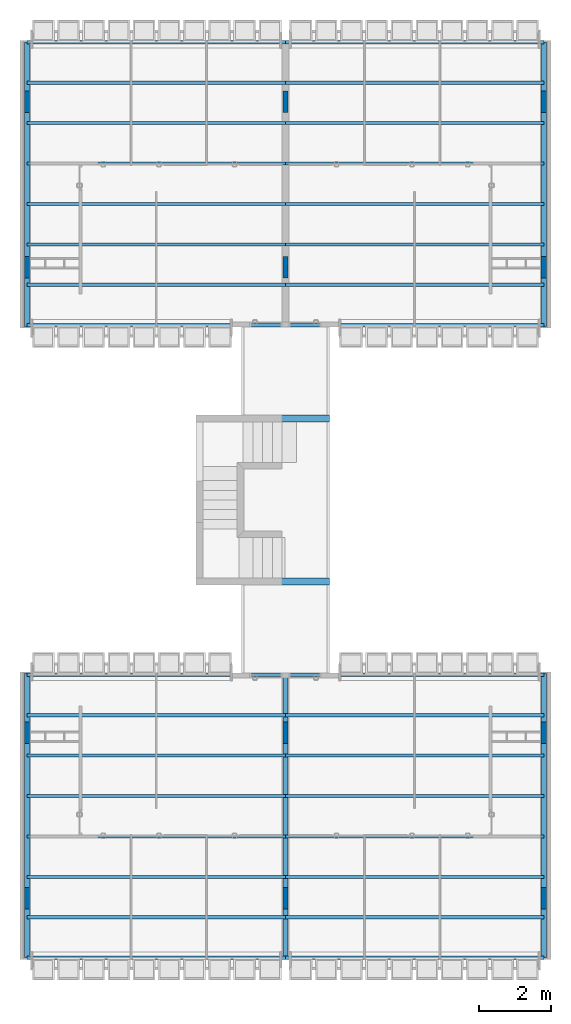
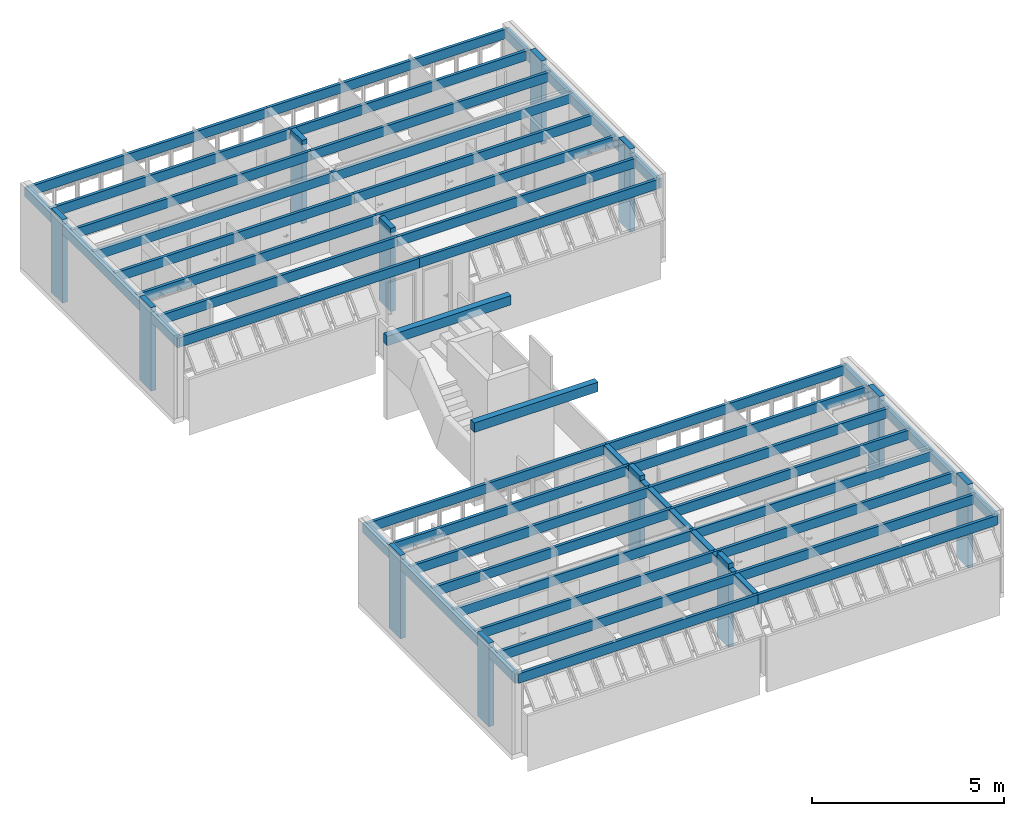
# One storey, part 1 of 38: 39 beams, 12 columns.
"""IFC2X3 building model written with IfcOpenShell, lengths in millimetres."""

from ifc_helpers import new_model, entity, si_unit, converted_unit, derived_unit, money_unit, direction, frame, frame_2d, origin_with_axes, origin_2d_with_axis, place, context, subcontext, project, spatial, rectangle, extrude, material, type_object, element, save


model = new_model("IFC2X3")

# Units and contexts
model_context = context("Model", 3, precision=0.01, world=origin_with_axes(), true_north=direction((0.0, 1.0)))
body_context = subcontext(model_context, "Body", "Model", "MODEL_VIEW")
ifc_project = project(units=[si_unit("LENGTHUNIT", "METRE", prefix="MILLI"), si_unit("AREAUNIT", "SQUARE_METRE"), si_unit("VOLUMEUNIT", "CUBIC_METRE"), converted_unit("PLANEANGLEUNIT", "DEGREE", entity("IfcPlaneAngleMeasure", 0.0174532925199), si_unit("PLANEANGLEUNIT", "RADIAN"), dimensions=[0, 0, 0, 0, 0, 0, 0]), money_unit("USD"), converted_unit("TIMEUNIT", "Year", entity("IfcTimeMeasure", 31556926.0), si_unit("TIMEUNIT", "SECOND"), dimensions=[0, 0, 1, 0, 0, 0, 0]), si_unit("MASSUNIT", "GRAM", prefix="KILO"), si_unit("THERMODYNAMICTEMPERATUREUNIT", "DEGREE_CELSIUS"), si_unit("LUMINOUSINTENSITYUNIT", "LUMEN"), si_unit("ENERGYUNIT", "JOULE", prefix="MEGA"), derived_unit("THERMALCONDUCTANCEUNIT", [(si_unit("POWERUNIT", "WATT"), 1), (si_unit("LENGTHUNIT", "METRE"), -1), (si_unit("THERMODYNAMICTEMPERATUREUNIT", "KELVIN"), -1)]), derived_unit("SPECIFICHEATCAPACITYUNIT", [(si_unit("ENERGYUNIT", "JOULE"), 1), (si_unit("MASSUNIT", "GRAM", prefix="KILO"), -1), (si_unit("THERMODYNAMICTEMPERATUREUNIT", "KELVIN"), -1)]), derived_unit("MASSDENSITYUNIT", [(si_unit("MASSUNIT", "GRAM", prefix="KILO"), 1), (si_unit("VOLUMEUNIT", "CUBIC_METRE"), -1)])], contexts=[model_context])

# Site, building, storey
site_placement = place(None, origin_with_axes())
site = spatial("IfcSite", under=ifc_project, at=site_placement, Name="Local", CompositionType="ELEMENT")
building_placement = place(site_placement, origin_with_axes())
building = spatial("IfcBuilding", under=site, at=building_placement, Name="Construção", CompositionType="ELEMENT")
storey_placement = place(building_placement, frame((0.0, 0.0, 2650.0), z_axis=(0.0, 0.0, 1.0), x_axis=(1.0, 0.0, 0.0)))
storey = spatial("IfcBuildingStorey", under=building, at=storey_placement, Name="Segundo Pavimento", CompositionType="ELEMENT", Elevation=2650.0)

# Columns
ifc_material = material(Name="Concreto Armado Moldado in Loco - Estrutural")
column_type = type_object("IfcColumnType", Name="Concreto Armado Moldado in Loco - Estrutural 600 x 150", PredefinedType="NOTDEFINED")
column_placement = place(storey_placement, frame((7385.0, 19560.0, 0.0), z_axis=(0.0, 0.0, 1.0), x_axis=(0.0, -1.0, 0.0)))
element("IfcColumn", 1, at=column_placement, inside=storey, type_object=column_type, material=ifc_material, Name="CIRC2-PILAR-004", context=body_context, shape_type="SweptSolid", body=[
    extrude(rectangle(XDim=600.0, YDim=150.0, at=origin_2d_with_axis()), frame((0.0, 0.0, 0.0), z_axis=(0.0, 0.0, -1.0), x_axis=(-1.0, 0.0, 0.0)), (0.0, 0.0, -1.0), 2650.0),
])
for number, where, z_axis, x_axis, name in (
    (2, (195.0, 2000.0, 0.0), (0.0, 0.0, 1.0), (0.0, -1.0, 0.0), "APTO5-PILAR-000"),
    (3, (195.0, 6600.0, 0.0), (0.0, 0.0, 1.0), (0.0, -1.0, 0.0), "APTO5-PILAR-001"),
    (4, (7385.0, 6600.0, 0.0), (0.0, 0.0, 1.0), (0.0, -1.0, 0.0), "CIRC2-PILAR-003"),
):
    element("IfcColumn", number, at=place(storey_placement, frame(where, z_axis=z_axis, x_axis=x_axis)), inside=storey, type_object=column_type, material=ifc_material, Name=name, context=body_context, shape_type="SweptSolid", body=[
        extrude(rectangle(XDim=600.0, YDim=150.0, at=origin_2d_with_axis()), origin_with_axes(), (0.0, 0.0, 1.0), 2650.0),
    ])
for number, where, z_axis, x_axis, name in (
    (5, (7385.0, 24160.0, 0.0), (0.0, 0.0, 1.0), (0.0, -1.0, 0.0), "CIRC2-PILAR-005"),
    (6, (14575.0, 2000.0, 0.0), (0.0, 0.0, 1.0), (0.0, 1.0, 0.0), "APTO6-PILAR-000"),
    (7, (14575.0, 6600.0, 0.0), (0.0, 0.0, 1.0), (0.0, 1.0, 0.0), "APTO6-PILAR-001"),
    (8, (195.0, 24160.0, 0.0), (0.0, 0.0, 1.0), (0.0, -1.0, 0.0), "APTO7-PILAR-000"),
    (9, (195.0, 19560.0, 0.0), (0.0, 0.0, 1.0), (0.0, -1.0, 0.0), "APTO7-PILAR-001"),
):
    element("IfcColumn", number, at=place(storey_placement, frame(where, z_axis=z_axis, x_axis=x_axis)), inside=storey, type_object=column_type, material=ifc_material, Name=name, context=body_context, shape_type="SweptSolid", body=[
        extrude(rectangle(XDim=600.0, YDim=150.0, at=origin_2d_with_axis()), frame((0.0, 0.0, 0.0), z_axis=(0.0, 0.0, -1.0), x_axis=(-1.0, 0.0, 0.0)), (0.0, 0.0, -1.0), 2650.0),
    ])
for number, where, z_axis, x_axis, name in (
    (10, (14575.0, 24160.0, 0.0), (0.0, 0.0, 1.0), (0.0, 1.0, 0.0), "APTO8-PILAR-000"),
    (11, (14575.0, 19560.0, 0.0), (0.0, 0.0, 1.0), (0.0, 1.0, 0.0), "APTO8-PILAR-001"),
    (12, (7385.0, 2000.0, 0.0), (0.0, 0.0, 1.0), (0.0, -1.0, 0.0), "CIRC2-PILAR-002"),
):
    element("IfcColumn", number, at=place(storey_placement, frame(where, z_axis=z_axis, x_axis=x_axis)), inside=storey, type_object=column_type, material=ifc_material, Name=name, context=body_context, shape_type="SweptSolid", body=[
        extrude(rectangle(XDim=600.0, YDim=150.0, at=origin_2d_with_axis()), origin_with_axes(), (0.0, 0.0, 1.0), 2650.0),
    ])

# Beams
beam_type_1 = type_object("IfcBeamType", Name="Concreto Armado Moldado in Loco - Estrutural 150 x 300", PredefinedType="NOTDEFINED")
beam_placement = place(storey_placement, frame((270.0, 8265.0, 2500.0), z_axis=(0.0, 0.0, 1.0), x_axis=(-1.0, 0.0, 0.0)))
element("IfcBeam", 13, at=beam_placement, inside=storey, type_object=beam_type_1, material=ifc_material, Name="APTO5-VIGA-009", context=body_context, shape_type="SweptSolid", body=[
    extrude(rectangle(XDim=300.0, YDim=150.0, at=frame_2d((-150.0, 75.0), x_axis=(1.0, 0.0))), frame((0.0, 0.0, 0.0), z_axis=(0.0, 1.0, 0.0), x_axis=(0.0, 0.0, 1.0)), (0.0, 0.0, 1.0), 7929.97902127),
])
for number, where, z_axis, x_axis, name in (
    (14, (14500.0, 8265.0, 2500.0), (0.0, 0.0, 1.0), (-1.0, 0.0, 0.0), "APTO6-VIGA-009"),
    (15, (270.0, 17895.0, 2500.0), (0.0, 0.0, 1.0), (1.0, 0.0, 0.0), "APTO7-VIGA-009"),
):
    element("IfcBeam", number, at=place(storey_placement, frame(where, z_axis=z_axis, x_axis=x_axis)), inside=storey, type_object=beam_type_1, material=ifc_material, Name=name, context=body_context, shape_type="SweptSolid", body=[
        extrude(rectangle(XDim=300.0, YDim=150.0, at=frame_2d((-150.0, -75.0), x_axis=(1.0, 0.0))), frame((0.0, 0.0, 0.0), z_axis=(0.0, 1.0, 0.0), x_axis=(0.0, 0.0, 1.0)), (0.0, 0.0, 1.0), 7929.97902127),
    ])
for number, where, z_axis, x_axis, name in (
    (16, (14500.0, 17895.0, 2500.0), (0.0, 0.0, 1.0), (1.0, 0.0, 0.0), "APTO8-VIGA-009"),
    (17, (7460.0, 8265.0, 2500.0), (0.0, 0.0, 1.0), (-1.0, 0.0, 0.0), "CIRC2-VIGA-012"),
):
    element("IfcBeam", number, at=place(storey_placement, frame(where, z_axis=z_axis, x_axis=x_axis)), inside=storey, type_object=beam_type_1, material=ifc_material, Name=name, context=body_context, shape_type="SweptSolid", body=[
        extrude(rectangle(XDim=300.0, YDim=150.0, at=frame_2d((-150.0, 75.0), x_axis=(1.0, 0.0))), frame((0.0, 0.0, 0.0), z_axis=(0.0, 1.0, 0.0), x_axis=(0.0, 0.0, 1.0)), (0.0, 0.0, 1.0), 7929.97902127),
    ])
beam_type_2 = type_object("IfcBeamType", Name="Concreto Armado Moldado in Loco - Estrutural 90 x 300", PredefinedType="NOTDEFINED")
for number, where, z_axis, x_axis, name in (
    (18, (195.0, 390.0, 2500.0), (0.0, 0.0, 1.0), (0.0, -1.0, 0.0), "APTO5-VIGA-001"),
    (19, (195.0, 1515.0, 2500.0), (0.0, 0.0, 1.0), (0.0, -1.0, 0.0), "APTO5-VIGA-002"),
    (20, (195.0, 2640.0, 2500.0), (0.0, 0.0, 1.0), (0.0, -1.0, 0.0), "APTO5-VIGA-003"),
    (21, (195.0, 3765.2195667, 2500.0), (0.0, 0.0, 1.0), (0.0, -1.0, 0.0), "APTO5-VIGA-004"),
    (22, (195.0, 4890.0, 2500.0), (0.0, 0.0, 1.0), (0.0, -1.0, 0.0), "APTO5-VIGA-005"),
    (23, (195.0, 8265.0, 2500.0), (0.0, 0.0, 1.0), (0.0, -1.0, 0.0), "APTO5-VIGA-008"),
    (24, (195.0, 6015.0, 2500.0), (0.0, 0.0, 1.0), (0.0, -1.0, 0.0), "APTO5-VIGA-006"),
    (25, (195.0, 7140.0, 2500.0), (0.0, 0.0, 1.0), (0.0, -1.0, 0.0), "APTO5-VIGA-007"),
):
    element("IfcBeam", number, at=place(storey_placement, frame(where, z_axis=z_axis, x_axis=x_axis)), inside=storey, type_object=beam_type_2, material=ifc_material, Name=name, context=body_context, shape_type="SweptSolid", body=[
        extrude(rectangle(XDim=300.0, YDim=90.0, at=frame_2d((-150.0, 45.0), x_axis=(1.0, 0.0))), frame((0.0, 0.0, 0.0), z_axis=(0.0, 1.0, 0.0), x_axis=(0.0, 0.0, 1.0)), (0.0, 0.0, 1.0), 7190.0),
    ])
for number, where, z_axis, x_axis, name in (
    (26, (14575.0, 390.0, 2500.0), (0.0, 0.0, 1.0), (0.0, 1.0, 0.0), "APTO6-VIGA-001"),
    (27, (14575.0, 1515.0, 2500.0), (0.0, 0.0, 1.0), (0.0, 1.0, 0.0), "APTO6-VIGA-002"),
    (28, (14575.0, 2640.0, 2500.0), (0.0, 0.0, 1.0), (0.0, 1.0, 0.0), "APTO6-VIGA-003"),
    (29, (14575.0, 3765.2195667, 2500.0), (0.0, 0.0, 1.0), (0.0, 1.0, 0.0), "APTO6-VIGA-004"),
    (30, (14575.0, 4890.0, 2500.0), (0.0, 0.0, 1.0), (0.0, 1.0, 0.0), "APTO6-VIGA-005"),
    (31, (14575.0, 8265.0, 2500.0), (0.0, 0.0, 1.0), (0.0, 1.0, 0.0), "APTO6-VIGA-008"),
    (32, (14575.0, 6015.0, 2500.0), (0.0, 0.0, 1.0), (0.0, 1.0, 0.0), "APTO6-VIGA-006"),
    (33, (14575.0, 7140.0, 2500.0), (0.0, 0.0, 1.0), (0.0, 1.0, 0.0), "APTO6-VIGA-007"),
    (34, (195.0, 25770.0, 2500.0), (0.0, 0.0, 1.0), (0.0, -1.0, 0.0), "APTO7-VIGA-001"),
    (35, (195.0, 24645.0, 2500.0), (0.0, 0.0, 1.0), (0.0, -1.0, 0.0), "APTO7-VIGA-002"),
    (36, (195.0, 23520.0, 2500.0), (0.0, 0.0, 1.0), (0.0, -1.0, 0.0), "APTO7-VIGA-003"),
    (37, (195.0, 22394.7804333, 2500.0), (0.0, 0.0, 1.0), (0.0, -1.0, 0.0), "APTO7-VIGA-004"),
    (38, (195.0, 21270.0, 2500.0), (0.0, 0.0, 1.0), (0.0, -1.0, 0.0), "APTO7-VIGA-005"),
    (39, (195.0, 17895.0, 2500.0), (0.0, 0.0, 1.0), (0.0, -1.0, 0.0), "APTO7-VIGA-008"),
    (40, (195.0, 20145.0, 2500.0), (0.0, 0.0, 1.0), (0.0, -1.0, 0.0), "APTO7-VIGA-006"),
    (41, (195.0, 19020.0, 2500.0), (0.0, 0.0, 1.0), (0.0, -1.0, 0.0), "APTO7-VIGA-007"),
):
    element("IfcBeam", number, at=place(storey_placement, frame(where, z_axis=z_axis, x_axis=x_axis)), inside=storey, type_object=beam_type_2, material=ifc_material, Name=name, context=body_context, shape_type="SweptSolid", body=[
        extrude(rectangle(XDim=300.0, YDim=90.0, at=frame_2d((-150.0, -45.0), x_axis=(1.0, 0.0))), frame((0.0, 0.0, 0.0), z_axis=(0.0, 1.0, 0.0), x_axis=(0.0, 0.0, 1.0)), (0.0, 0.0, 1.0), 7190.0),
    ])
for number, where, z_axis, x_axis, name in (
    (42, (14575.0, 25770.0, 2500.0), (0.0, 0.0, 1.0), (0.0, 1.0, 0.0), "APTO8-VIGA-001"),
    (43, (14575.0, 24645.0, 2500.0), (0.0, 0.0, 1.0), (0.0, 1.0, 0.0), "APTO8-VIGA-002"),
    (44, (14575.0, 23520.0, 2500.0), (0.0, 0.0, 1.0), (0.0, 1.0, 0.0), "APTO8-VIGA-003"),
    (45, (14575.0, 22394.7804333, 2500.0), (0.0, 0.0, 1.0), (0.0, 1.0, 0.0), "APTO8-VIGA-004"),
    (46, (14575.0, 21270.0, 2500.0), (0.0, 0.0, 1.0), (0.0, 1.0, 0.0), "APTO8-VIGA-005"),
    (47, (14575.0, 17895.0, 2500.0), (0.0, 0.0, 1.0), (0.0, 1.0, 0.0), "APTO8-VIGA-008"),
    (48, (14575.0, 20145.0, 2500.0), (0.0, 0.0, 1.0), (0.0, 1.0, 0.0), "APTO8-VIGA-006"),
    (49, (14575.0, 19020.0, 2500.0), (0.0, 0.0, 1.0), (0.0, 1.0, 0.0), "APTO8-VIGA-007"),
):
    element("IfcBeam", number, at=place(storey_placement, frame(where, z_axis=z_axis, x_axis=x_axis)), inside=storey, type_object=beam_type_2, material=ifc_material, Name=name, context=body_context, shape_type="SweptSolid", body=[
        extrude(rectangle(XDim=300.0, YDim=90.0, at=frame_2d((-150.0, 45.0), x_axis=(1.0, 0.0))), frame((0.0, 0.0, 0.0), z_axis=(0.0, 1.0, 0.0), x_axis=(0.0, 0.0, 1.0)), (0.0, 0.0, 1.0), 7190.0),
    ])
beam_type_3 = type_object("IfcBeamType", Name="Concreto Armado Moldado in Loco - Estrutural 190 x 300", PredefinedType="NOTDEFINED")
for number, where, z_axis, x_axis, name in (
    (50, (4890.0, 10815.0, 2350.0), (0.0, 0.0, 1.0), (0.0, -1.0, 0.0), "CIRC2-VIGA-010"),
    (51, (4890.0, 15345.0, 2350.0), (0.0, 0.0, 1.0), (0.0, -1.0, 0.0), "CIRC2-VIGA-011"),
):
    element("IfcBeam", number, at=place(storey_placement, frame(where, z_axis=z_axis, x_axis=x_axis)), inside=storey, type_object=beam_type_3, material=ifc_material, Name=name, context=body_context, shape_type="SweptSolid", body=[
        extrude(rectangle(XDim=300.0, YDim=190.0, at=origin_2d_with_axis()), frame((0.0, 0.0, 0.0), z_axis=(0.0, 1.0, 0.0), x_axis=(0.0, 0.0, 1.0)), (0.0, 0.0, 1.0), 3720.0),
    ])

save(model, "model.ifc")
